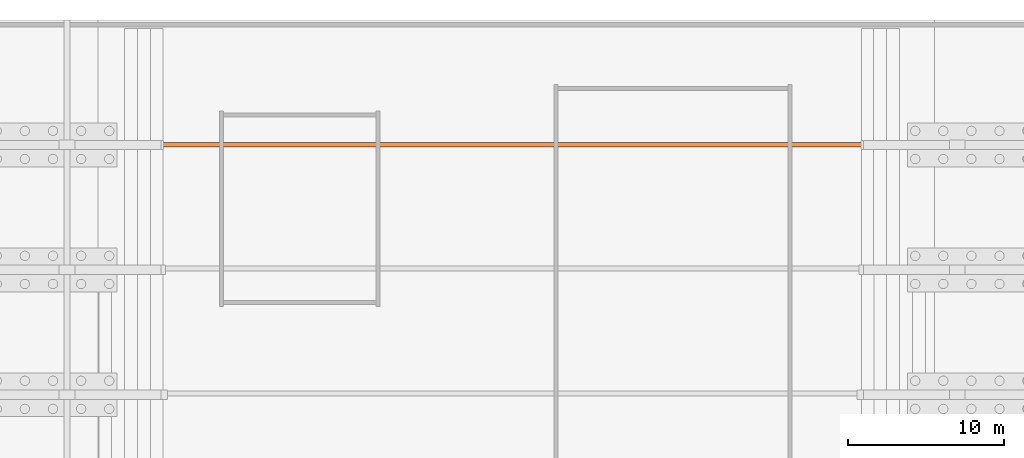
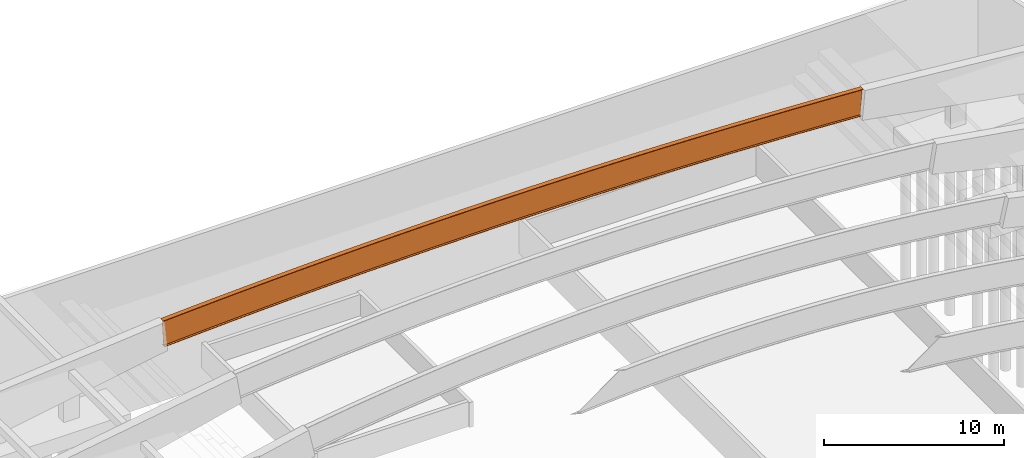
# One storey, part 10 of 10: 1 proxy.
"""IFC2X3 building model written with IfcOpenShell, lengths in millimetres."""

from ifc_helpers import new_model, si_unit, derived_unit, direction, frame, origin, place, context, subcontext, project, spatial, face_set, surface_model, source, transform, mapped, type_object, type_shapes, element, save


model = new_model("IFC2X3")

# Units and contexts
model_context = context("Model", 3, precision=0.01, world=origin(), true_north=direction((6.12303176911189e-17, 1.0)))
body_context = subcontext(model_context, "Body", "Model", "MODEL_VIEW")
ifc_project = project(units=[si_unit("LENGTHUNIT", "METRE", prefix="MILLI"), si_unit("AREAUNIT", "SQUARE_METRE"), si_unit("VOLUMEUNIT", "CUBIC_METRE"), si_unit("PLANEANGLEUNIT", "RADIAN"), si_unit("MASSUNIT", "GRAM", prefix="KILO"), derived_unit("MASSDENSITYUNIT", [(si_unit("MASSUNIT", "GRAM", prefix="KILO"), 1), (si_unit("LENGTHUNIT", "METRE"), -3)]), si_unit("TIMEUNIT", "SECOND"), si_unit("FREQUENCYUNIT", "HERTZ"), si_unit("THERMODYNAMICTEMPERATUREUNIT", "DEGREE_CELSIUS"), derived_unit("THERMALTRANSMITTANCEUNIT", [(si_unit("MASSUNIT", "GRAM", prefix="KILO"), 1), (si_unit("THERMODYNAMICTEMPERATUREUNIT", "KELVIN"), -1), (si_unit("TIMEUNIT", "SECOND"), -3)]), derived_unit("VOLUMETRICFLOWRATEUNIT", [(si_unit("LENGTHUNIT", "METRE"), 3), (si_unit("TIMEUNIT", "SECOND"), -1)]), si_unit("ELECTRICCURRENTUNIT", "AMPERE"), si_unit("ELECTRICVOLTAGEUNIT", "VOLT"), si_unit("POWERUNIT", "WATT"), si_unit("FORCEUNIT", "NEWTON", prefix="KILO"), si_unit("ILLUMINANCEUNIT", "LUX"), si_unit("LUMINOUSFLUXUNIT", "LUMEN"), si_unit("LUMINOUSINTENSITYUNIT", "CANDELA"), derived_unit("USERDEFINED", [(si_unit("MASSUNIT", "GRAM", prefix="KILO"), -1), (si_unit("LENGTHUNIT", "METRE"), -2), (si_unit("TIMEUNIT", "SECOND"), 3), (si_unit("LUMINOUSFLUXUNIT", "LUMEN"), 1)]), derived_unit("LINEARVELOCITYUNIT", [(si_unit("LENGTHUNIT", "METRE"), 1), (si_unit("TIMEUNIT", "SECOND"), -1)]), si_unit("PRESSUREUNIT", "PASCAL"), derived_unit("USERDEFINED", [(si_unit("LENGTHUNIT", "METRE"), -2), (si_unit("MASSUNIT", "GRAM", prefix="KILO"), 1), (si_unit("TIMEUNIT", "SECOND"), -2)])], contexts=[model_context])

# Site, building, storey
site_placement = place(None, origin())
site = spatial("IfcSite", under=ifc_project, at=site_placement, Name="Default", CompositionType="ELEMENT")
building_placement = place(site_placement, origin())
building = spatial("IfcBuilding", under=site, at=building_placement, CompositionType="ELEMENT")
storey_placement = place(building_placement, origin())
storey = spatial("IfcBuildingStorey", under=building, at=storey_placement, Name="Default", CompositionType="ELEMENT", Elevation=0.0)

# Proxy
building_element_proxy_type = type_object("IfcBuildingElementProxyType", Name="VIGA", PredefinedType="NOTDEFINED")
shared_shape = source(origin(), body_context, "Body", "SurfaceModel", [
    surface_model("IfcFaceBasedSurfaceModel", [(45000.0061613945, 0.0, 1797.04647389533), (44998.574596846, 0.0, 1772.08749509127), (44998.574596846, 140.0, 1772.08749509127), (44898.3650784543, 140.0, 24.9589788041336), (44898.3650784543, 0.0, 24.9589788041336), (44896.9335139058, 0.0, 0.0), (44896.9335139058, 300.0, 0.0), (44898.3650784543, 300.0, 24.9589788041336), (44898.3650784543, 160.0, 24.9589788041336), (44998.574596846, 160.0, 1772.08749509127), (44998.574596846, 300.0, 1772.08749509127), (45000.0061613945, 300.0, 1797.04647389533), (0.0, 0.0, 1797.04647389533), (0.0, 300.0, 1797.04647389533), (1.43156454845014, 300.0, 1772.0874950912), (1.43156454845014, 160.0, 1772.0874950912), (101.641082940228, 160.0, 24.9589788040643), (101.641082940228, 300.0, 24.9589788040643), (103.072647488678, 300.0, 0.0), (103.072647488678, 0.0, 0.0), (101.641082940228, 0.0, 24.9589788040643), (101.641082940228, 140.0, 24.9589788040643), (1.43156454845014, 140.0, 1772.0874950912), (1.43156454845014, 0.0, 1772.0874950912), (38575.7380758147, 0.00390136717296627, 2112.79008847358), (40717.7282613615, 0.00390136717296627, 2019.22763081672), (40717.7282613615, 300.004194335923, 2019.22763081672), (38575.7380758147, 300.004194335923, 2112.79008847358), (42859.1696431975, 0.00390136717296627, 1913.97867718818), (42859.1696431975, 300.004194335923, 1913.97867718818), (36433.2735006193, 0.00390136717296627, 2194.66328869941), (36433.2735006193, 300.004194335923, 2194.66328869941), (27859.9084371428, 0.00390136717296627, 2405.22064000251), (30003.6566549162, 0.00390136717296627, 2370.12510777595), (30003.6566549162, 300.004194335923, 2370.12510777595), (27859.9084371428, 300.004194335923, 2405.22064000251), (25716.0113912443, 0.00390136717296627, 2428.61819440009), (25716.0113912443, 300.004194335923, 2428.61819440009), (32147.1723287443, 0.00390136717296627, 2323.33276044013), (34290.3996480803, 0.00390136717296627, 2264.84490605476), (34290.3996480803, 300.004194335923, 2264.84490605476), (32147.1723287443, 300.004194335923, 2323.33276044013), (23572.0213277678, 0.00390136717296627, 2440.31718960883), (23572.0213277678, 300.004194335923, 2440.31718960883), (21427.9847555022, 0.00390136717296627, 2440.31718960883), (21427.9847555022, 300.004194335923, 2440.31718960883), (14996.3540792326, 0.00390136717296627, 2370.12510777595), (17140.0929952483, 0.00390136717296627, 2405.22064000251), (17140.0929952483, 300.004194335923, 2405.22064000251), (14996.3540792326, 300.004194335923, 2370.12510777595), (19283.9946920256, 0.00390136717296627, 2428.61819440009), (19283.9946920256, 300.004194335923, 2428.61819440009), (12852.8384054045, 0.00390136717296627, 2323.33276044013), (12852.8384054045, 300.004194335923, 2323.33276044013), (4282.27782190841, 0.00390136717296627, 2019.22763081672), (6424.26335657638, 0.00390136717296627, 2112.79008847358), (6424.26335657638, 300.004194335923, 2112.79008847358), (4282.27782190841, 300.004194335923, 2019.22763081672), (2140.83644007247, 0.00390136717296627, 1913.97867718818), (2140.83644007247, 300.004194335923, 1913.97867718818), (8566.72793177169, 0.00390136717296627, 2194.66328869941), (10709.6064351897, 0.00390136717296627, 2264.84490605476), (10709.6064351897, 300.004194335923, 2264.84490605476), (8566.72793177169, 300.004194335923, 2194.66328869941), (42857.8742589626, 300.0, 1889.01224687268), (40716.5677854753, 300.0, 1994.25444751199), (38574.7189316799, 300.0, 2087.81096352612), (36432.3914690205, 300.0, 2169.6790093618), (34289.6491831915, 300.0, 2239.85614747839), (32146.5558722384, 300.0, 2298.34028842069), (30003.175344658, 300.0, 2345.12969088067), (27859.5714174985, 300.0, 2380.22296175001), (25715.80791446, 300.0, 2403.61905616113), (23571.9486639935, 300.0, 2415.31727751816), (21428.057497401, 300.0, 2415.31727751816), (19284.1982469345, 300.0, 2403.61905616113), (17140.434743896, 300.0, 2380.22296175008), (14996.8308167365, 300.0, 2345.12969088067), (12853.4502891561, 300.0, 2298.34028842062), (10710.356978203, 300.0, 2239.85614747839), (8567.61469237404, 300.0, 2169.67900936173), (6425.28722971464, 300.0, 2087.81096352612), (4283.43837591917, 300.0, 1994.25444751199), (2142.13190243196, 300.0, 1889.01224687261), (36432.3898336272, 160.003437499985, 2169.67905789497), (40716.565541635, 160.003437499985, 1994.25444584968), (27859.5735738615, 160.003437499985, 2380.22289258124), (32146.5584127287, 160.003437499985, 2298.34024525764), (23571.9469137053, 160.003437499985, 2415.31726208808), (21428.0591695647, 160.003437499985, 2415.31726208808), (17140.4325094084, 160.003437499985, 2380.22289258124), (12853.4523214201, 160.003437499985, 2298.34024525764), (4283.44054163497, 160.003437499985, 1994.25444584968), (8567.61624964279, 160.003437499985, 2169.67905789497), (2142.13190243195, 160.0, 1889.01224687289), (6425.28722971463, 160.0, 2087.81096352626), (10710.356978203, 160.0, 2239.85614747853), (14996.8308167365, 160.0, 2345.12969088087), (19284.1982469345, 160.0, 2403.61905616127), (25715.80791446, 160.0, 2403.61905616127), (30003.175344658, 160.0, 2345.12969088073), (34289.6491831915, 160.0, 2239.85614747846), (38574.7189316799, 160.0, 2087.81096352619), (42857.8742589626, 160.0, 1889.01224687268), (42767.1995036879, 160.0, 141.362943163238), (40635.4304930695, 160.0, 246.136390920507), (38503.1215179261, 160.0, 339.276202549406), (36370.3360656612, 160.0, 420.779604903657), (34237.1376378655, 160.0, 490.644171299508), (32103.5897484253, 160.0, 548.867821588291), (29969.7559216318, 160.0, 595.448822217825), (27835.6996902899, 160.0, 630.385786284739), (25701.484593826, 160.0, 653.677673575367), (23567.174176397, 160.0, 665.32379059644), (21432.8319849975, 160.0, 665.32379059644), (19298.5215675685, 160.0, 653.677673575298), (17164.3064711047, 160.0, 630.385786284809), (15030.2502397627, 160.0, 595.448822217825), (12896.4164129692, 160.0, 548.867821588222), (10762.868523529, 160.0, 490.644171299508), (8629.67009573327, 160.0, 420.779604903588), (6496.88464346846, 160.0, 339.276202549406), (4364.57566832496, 160.0, 246.136390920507), (2232.8066577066, 160.0, 141.362943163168), (38503.1192525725, 300.004194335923, 339.276194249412), (40635.4263082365, 300.004194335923, 246.136403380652), (42767.2031637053, 300.004194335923, 141.362929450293), (36370.33780726, 300.004194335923, 420.779604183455), (27835.6959615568, 300.004194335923, 630.385787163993), (29969.7517476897, 300.004194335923, 595.448823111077), (25701.4820455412, 300.004194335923, 653.677670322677), (32103.5935933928, 300.004194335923, 548.867821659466), (34237.1377828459, 300.004194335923, 490.644171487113), (23567.1751119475, 300.004194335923, 665.323789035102), (21432.8309713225, 300.004194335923, 665.323789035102), (15030.2496847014, 300.004194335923, 595.448823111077), (17164.3054708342, 300.004194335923, 630.385787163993), (19298.5193868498, 300.004194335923, 653.677670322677), (12896.4171407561, 300.004194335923, 548.867821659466), (4364.5751241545, 300.004194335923, 246.136403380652), (6496.88683069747, 300.004194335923, 339.276194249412), (2232.80757044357, 300.004194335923, 141.362929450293), (8629.66827600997, 300.004194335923, 420.779604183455), (10762.868300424, 300.004194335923, 490.644171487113), (42765.9041500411, 300.0, 116.396524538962), (40634.2713888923, 300.0, 221.16327582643), (38502.0986977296, 300.0, 314.2971345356), (36369.449559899, 300.0, 395.795327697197), (34236.3874729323, 300.0, 465.655428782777), (32102.9759466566, 300.0, 523.875357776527), (29969.2785013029, 300.0, 570.453381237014), (27835.3586656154, 300.0, 605.388112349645), (25701.2799749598, 300.0, 628.678510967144), (23567.1059694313, 300.0, 640.323883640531), (21432.9001919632, 300.0, 640.323883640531), (19298.7261864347, 300.0, 628.678510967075), (17164.6474957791, 300.0, 605.388112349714), (15030.7276600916, 300.0, 570.453381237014), (12897.030214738, 300.0, 523.875357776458), (10763.6186884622, 300.0, 465.655428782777), (8630.55660149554, 300.0, 395.795327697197), (6497.90746366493, 300.0, 314.2971345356), (4365.73477250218, 300.0, 221.16327582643), (2234.10201135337, 300.0, 116.396524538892), (40634.2728902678, 0.00390136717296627, 221.163291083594), (36369.4541402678, 0.00390136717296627, 395.795327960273), (27835.3610982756, 0.00390136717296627, 605.388112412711), (32102.9796773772, 0.00390136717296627, 523.875359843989), (23567.1099996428, 0.00390136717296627, 640.323879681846), (21432.8960836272, 0.00390136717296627, 640.323879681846), (17164.6496358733, 0.00390136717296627, 605.388112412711), (12897.0310567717, 0.00390136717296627, 523.875359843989), (4365.73319300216, 0.00390136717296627, 221.163291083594), (8630.55659388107, 0.00390136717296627, 395.795327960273), (2234.10201135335, 0.0, 116.396524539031), (6497.90746366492, 0.0, 314.297134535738), (10763.6186884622, 0.0, 465.655428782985), (15030.7276600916, 0.0, 570.453381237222), (19298.7261864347, 0.0, 628.678510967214), (25701.2799749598, 0.0, 628.678510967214), (29969.2785013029, 0.0, 570.453381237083), (34236.3874729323, 0.0, 465.655428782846), (38502.0986977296, 0.0, 314.2971345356), (42765.9041500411, 0.0, 116.396524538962), (42767.1995036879, 0.0, 141.362943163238), (40635.4304930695, 0.0, 246.136390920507), (38503.1215179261, 0.0, 339.276202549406), (36370.3360656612, 0.0, 420.779604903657), (34237.1376378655, 0.0, 490.644171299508), (32103.5897484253, 0.0, 548.867821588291), (29969.7559216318, 0.0, 595.448822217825), (27835.6996902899, 0.0, 630.385786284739), (25701.484593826, 0.0, 653.677673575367), (23567.174176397, 0.0, 665.32379059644), (21432.8319849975, 0.0, 665.32379059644), (19298.5215675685, 0.0, 653.677673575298), (17164.3064711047, 0.0, 630.385786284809), (15030.2502397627, 0.0, 595.448822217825), (12896.4164129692, 0.0, 548.867821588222), (10762.868523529, 0.0, 490.644171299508), (8629.67009573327, 0.0, 420.779604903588), (6496.88464346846, 0.0, 339.276202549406), (4364.57566832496, 0.0, 246.136390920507), (2232.8066577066, 0.0, 141.362943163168), (38503.1192525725, 139.995356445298, 339.276194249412), (40635.4263082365, 139.995356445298, 246.136403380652), (42767.2031637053, 139.995356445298, 141.362929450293), (36370.33780726, 139.995356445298, 420.779604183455), (27835.6959615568, 139.995356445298, 630.385787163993), (29969.7517476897, 139.995356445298, 595.448823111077), (25701.4820455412, 139.995356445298, 653.677670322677), (32103.5935933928, 139.995356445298, 548.867821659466), (34237.1377828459, 139.995356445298, 490.644171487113), (23567.1751119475, 139.995356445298, 665.323789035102), (21432.8309713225, 139.995356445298, 665.323789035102), (15030.2496847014, 139.995356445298, 595.448823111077), (17164.3054708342, 139.995356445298, 630.385787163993), (19298.5193868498, 139.995356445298, 653.677670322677), (12896.4171407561, 139.995356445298, 548.867821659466), (4364.5751241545, 139.995356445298, 246.136403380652), (6496.88683069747, 139.995356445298, 339.276194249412), (2232.80757044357, 139.995356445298, 141.362929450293), (8629.66827600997, 139.995356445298, 420.779604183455), (10762.868300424, 139.995356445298, 490.644171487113), (42857.8742589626, 140.0, 1889.01224687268), (40716.5677854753, 140.0, 1994.25444751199), (38574.7189316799, 140.0, 2087.81096352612), (36432.3914690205, 140.0, 2169.6790093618), (34289.6491831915, 140.0, 2239.85614747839), (32146.5558722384, 140.0, 2298.34028842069), (30003.175344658, 140.0, 2345.12969088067), (27859.5714174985, 140.0, 2380.22296175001), (25715.80791446, 140.0, 2403.61905616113), (23571.9486639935, 140.0, 2415.31727751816), (21428.057497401, 140.0, 2415.31727751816), (19284.1982469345, 140.0, 2403.61905616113), (17140.434743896, 140.0, 2380.22296175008), (14996.8308167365, 140.0, 2345.12969088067), (12853.4502891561, 140.0, 2298.34028842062), (10710.356978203, 140.0, 2239.85614747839), (8567.61469237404, 140.0, 2169.67900936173), (6425.28722971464, 140.0, 2087.81096352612), (4283.43837591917, 140.0, 1994.25444751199), (2142.13190243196, 140.0, 1889.01224687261), (40716.565541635, 0.00390136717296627, 1994.25444584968), (36432.3898336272, 0.00390136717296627, 2169.67905789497), (32146.5584127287, 0.00390136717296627, 2298.34024525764), (27859.5735738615, 0.00390136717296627, 2380.22289258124), (23571.9469137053, 0.00390136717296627, 2415.31726208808), (21428.0591695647, 0.00390136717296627, 2415.31726208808), (17140.4325094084, 0.00390136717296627, 2380.22289258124), (12853.4523214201, 0.00390136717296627, 2298.34024525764), (8567.61624964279, 0.00390136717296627, 2169.67905789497), (4283.44054163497, 0.00390136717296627, 1994.25444584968), (2142.13190243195, 0.0, 1889.01224687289), (6425.28722971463, 0.0, 2087.81096352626), (10710.356978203, 0.0, 2239.85614747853), (14996.8308167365, 0.0, 2345.12969088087), (19284.1982469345, 0.0, 2403.61905616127), (25715.80791446, 0.0, 2403.61905616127), (30003.175344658, 0.0, 2345.12969088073), (34289.6491831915, 0.0, 2239.85614747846), (38574.7189316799, 0.0, 2087.81096352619), (42857.8742589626, 0.0, 1889.01224687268)], [face_set([[[0, 1, 2, 3, 4, 5, 6, 7, 8, 9, 10, 11]], [[12, 13, 14, 15, 16, 17, 18, 19, 20, 21, 22, 23]], [[24, 25, 26, 27]], [[25, 28, 29, 26]], [[0, 11, 29, 28]], [[30, 24, 27, 31]], [[32, 33, 34, 35]], [[36, 32, 35, 37]], [[38, 39, 40, 41]], [[33, 38, 41, 34]], [[39, 30, 31, 40]], [[42, 36, 37, 43]], [[44, 42, 43, 45]], [[46, 47, 48, 49]], [[50, 44, 45, 51]], [[47, 50, 51, 48]], [[52, 46, 49, 53]], [[54, 55, 56, 57]], [[58, 54, 57, 59]], [[60, 61, 62, 63]], [[55, 60, 63, 56]], [[61, 52, 53, 62]], [[12, 58, 59, 13]], [[14, 13, 59, 57, 56, 63, 62, 53, 49, 48, 51, 45, 43, 37, 35, 34, 41, 40, 31, 27, 26, 29, 11, 10, 64, 65, 66, 67, 68, 69, 70, 71, 72, 73, 74, 75, 76, 77, 78, 79, 80, 81, 82, 83]], [[65, 67, 84, 85]], [[9, 10, 65, 85]], [[69, 71, 86, 87]], [[67, 69, 87, 84]], [[71, 73, 88, 86]], [[89, 88, 73, 74]], [[74, 76, 90, 89]], [[76, 78, 91, 90]], [[80, 82, 92, 93]], [[78, 80, 93, 91]], [[82, 14, 15, 92]], [[16, 15, 94, 92, 95, 93, 96, 91, 97, 90, 98, 89, 88, 99, 86, 100, 87, 101, 84, 102, 85, 103, 9, 8, 104, 105, 106, 107, 108, 109, 110, 111, 112, 113, 114, 115, 116, 117, 118, 119, 120, 121, 122, 123]], [[124, 125, 105, 106]], [[125, 126, 104, 105]], [[8, 7, 126, 104]], [[127, 124, 106, 107]], [[128, 129, 110, 111]], [[130, 128, 111, 112]], [[131, 132, 108, 109]], [[129, 131, 109, 110]], [[132, 127, 107, 108]], [[133, 130, 112, 113]], [[134, 133, 113, 114]], [[135, 136, 116, 117]], [[137, 134, 114, 115]], [[136, 137, 115, 116]], [[138, 135, 117, 118]], [[139, 140, 121, 122]], [[141, 139, 122, 123]], [[142, 143, 119, 120]], [[140, 142, 120, 121]], [[143, 138, 118, 119]], [[16, 123, 141, 17]], [[18, 17, 141, 139, 140, 142, 143, 138, 135, 136, 137, 134, 133, 130, 128, 129, 131, 132, 127, 124, 125, 126, 7, 6, 144, 145, 146, 147, 148, 149, 150, 151, 152, 153, 154, 155, 156, 157, 158, 159, 160, 161, 162, 163]], [[5, 164, 145, 6]], [[165, 147, 145, 164]], [[166, 151, 149, 167]], [[167, 149, 147, 165]], [[168, 153, 151, 166]], [[169, 154, 153, 168]], [[170, 156, 154, 169]], [[171, 158, 156, 170]], [[172, 162, 160, 173]], [[173, 160, 158, 171]], [[19, 18, 162, 172]], [[20, 19, 174, 172, 175, 173, 176, 171, 177, 170, 178, 169, 168, 179, 166, 180, 167, 181, 165, 182, 164, 183, 5, 4, 184, 185, 186, 187, 188, 189, 190, 191, 192, 193, 194, 195, 196, 197, 198, 199, 200, 201, 202, 203]], [[186, 204, 205, 185]], [[185, 205, 206, 184]], [[184, 4, 3, 206]], [[187, 207, 204, 186]], [[191, 208, 209, 190]], [[192, 210, 208, 191]], [[189, 211, 212, 188]], [[190, 209, 211, 189]], [[188, 212, 207, 187]], [[193, 213, 210, 192]], [[213, 193, 194, 214]], [[197, 215, 216, 196]], [[195, 217, 214, 194]], [[196, 216, 217, 195]], [[198, 218, 215, 197]], [[202, 219, 220, 201]], [[203, 221, 219, 202]], [[200, 222, 223, 199]], [[201, 220, 222, 200]], [[199, 223, 218, 198]], [[203, 221, 21, 20]], [[22, 21, 221, 219, 220, 222, 223, 218, 215, 216, 217, 214, 213, 210, 208, 209, 211, 212, 207, 204, 205, 206, 3, 2, 224, 225, 226, 227, 228, 229, 230, 231, 232, 233, 234, 235, 236, 237, 238, 239, 240, 241, 242, 243]], [[2, 225, 244, 1]], [[244, 225, 227, 245]], [[246, 229, 231, 247]], [[245, 227, 229, 246]], [[247, 231, 233, 248]], [[248, 233, 234, 249]], [[249, 234, 236, 250]], [[250, 236, 238, 251]], [[252, 240, 242, 253]], [[251, 238, 240, 252]], [[253, 242, 22, 23]], [[12, 23, 254, 253, 255, 252, 256, 251, 257, 250, 258, 249, 248, 259, 247, 260, 246, 261, 245, 262, 244, 263, 1, 0, 28, 25, 24, 30, 39, 38, 33, 32, 36, 42, 44, 50, 47, 46, 52, 61, 60, 55, 54, 58]]])]),
])
type_shapes(building_element_proxy_type, [shared_shape])
proxy_placement = place(building_placement, frame((58496.2767739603, 122664.275479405, -562.907802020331)))
element("IfcBuildingElementProxy", 1, at=proxy_placement, inside=storey, type_object=building_element_proxy_type, Name="VIGA:VIGA", ObjectType="VIGA:VIGA", context=body_context, shape_type="MappedRepresentation", body=[
    mapped(shared_shape, transform((0.0, 0.0, 0.0), scale=1.0)),
])

save(model, "model.ifc")
